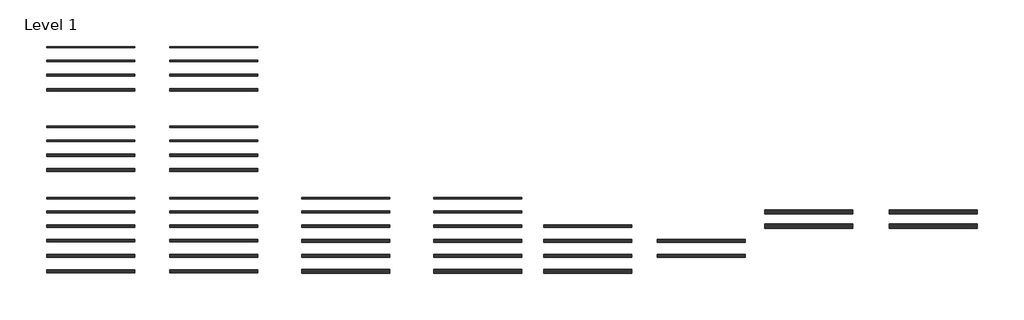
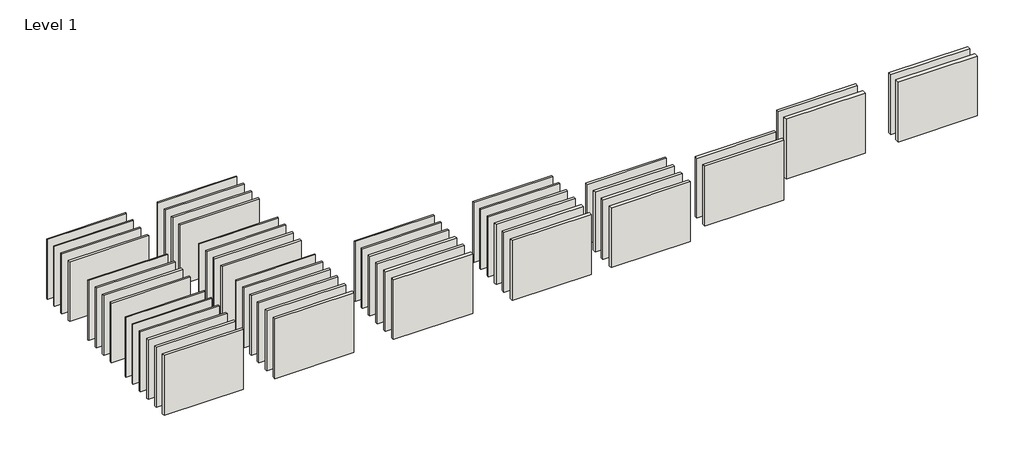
# One storey: 50 walls.
"""IFC4 building model written with IfcOpenShell, lengths in millimetres."""

from ifc_helpers import new_model, si_unit, origin, origin_with_axes, place, context, project, spatial, polyline, outline, extrude, element, save

model = new_model("IFC4")

# Units and contexts
model_context = context("Model", 3, world=origin())
ifc_project = project(units=[si_unit("LENGTHUNIT", "METRE", prefix="MILLI")], contexts=[model_context])

# Site, building, storey
site = spatial("IfcSite", under=ifc_project)
building = spatial("IfcBuilding", under=site)
storey = spatial("IfcBuildingStorey", under=building, Name="Level 1", Elevation=0.0)

# Walls
placement = place(None, origin())
element("IfcWall", 1, ObjectType="Knauf Danogips E MR 450 45/45 -/AA M0", at=placement, inside=storey, context=model_context, shape_type="SweptSolid", body=[
    extrude(outline(polyline([(2218.7204375, 1079.3559755), (-2781.2795625, 1079.3559755), (-2781.2795625, 1149.3559755), (2218.7204375, 1149.3559755), (2218.7204375, 1079.3559755)])), origin_with_axes(), (0.0, 0.0, 1.0), 4000.0),
])
element("IfcWall", 2, ObjectType="Knauf Danogips E MR 450 70/70 -/AA M0", at=placement, inside=storey, context=model_context, shape_type="SweptSolid", body=[
    extrude(outline(polyline([(2218.7204375, 284.3559755), (-2781.2795625, 284.3559755), (-2781.2795625, 379.3559755), (2218.7204375, 379.3559755), (2218.7204375, 284.3559755)])), origin_with_axes(), (0.0, 0.0, 1.0), 4000.0),
])
element("IfcWall", 3, ObjectType="Knauf Danogips E MR 450 95/95 -/AA M0", at=placement, inside=storey, context=model_context, shape_type="SweptSolid", body=[
    extrude(outline(polyline([(2218.7204375, -535.6440245), (-2781.2795625, -535.6440245), (-2781.2795625, -415.6440245), (2218.7204375, -415.6440245), (2218.7204375, -535.6440245)])), origin_with_axes(), (0.0, 0.0, 1.0), 4000.0),
])
element("IfcWall", 4, ObjectType="Knauf Danogips E MR 450 120/120 -/AA M0", at=placement, inside=storey, context=model_context, shape_type="SweptSolid", body=[
    extrude(outline(polyline([(2218.7204375, -1380.6440245), (-2781.2795625, -1380.6440245), (-2781.2795625, -1235.6440245), (2218.7204375, -1235.6440245), (2218.7204375, -1380.6440245)])), origin_with_axes(), (0.0, 0.0, 1.0), 4000.0),
])
element("IfcWall", 5, ObjectType="Knauf Danogips E MR 450 45/45 -/AAA M0", at=placement, inside=storey, context=model_context, shape_type="SweptSolid", body=[
    extrude(outline(polyline([(2218.7204375, -3463.1440245), (-2781.2795625, -3463.1440245), (-2781.2795625, -3380.6440245), (2218.7204375, -3380.6440245), (2218.7204375, -3463.1440245)])), origin_with_axes(), (0.0, 0.0, 1.0), 4000.0),
])
element("IfcWall", 6, ObjectType="Knauf Danogips E MR 450 70/70 -/AAA M0", at=placement, inside=storey, context=model_context, shape_type="SweptSolid", body=[
    extrude(outline(polyline([(2218.7204375, -4270.6440245), (-2781.2795625, -4270.6440245), (-2781.2795625, -4163.1440245), (2218.7204375, -4163.1440245), (2218.7204375, -4270.6440245)])), origin_with_axes(), (0.0, 0.0, 1.0), 4000.0),
])
element("IfcWall", 7, ObjectType="Knauf Danogips E MR 450 95/95 -/AAA M0", at=placement, inside=storey, context=model_context, shape_type="SweptSolid", body=[
    extrude(outline(polyline([(2218.7204375, -5103.1440245), (-2781.2795625, -5103.1440245), (-2781.2795625, -4970.6440245), (2218.7204375, -4970.6440245), (2218.7204375, -5103.1440245)])), origin_with_axes(), (0.0, 0.0, 1.0), 4000.0),
])
element("IfcWall", 8, ObjectType="Knauf Danogips E MR 450 120/120 -/AAA M0", at=placement, inside=storey, context=model_context, shape_type="SweptSolid", body=[
    extrude(outline(polyline([(2218.7204375, -5960.6440245), (-2781.2795625, -5960.6440245), (-2781.2795625, -5803.1440245), (2218.7204375, -5803.1440245), (2218.7204375, -5960.6440245)])), origin_with_axes(), (0.0, 0.0, 1.0), 4000.0),
])
element("IfcWall", 9, ObjectType="Knauf Danogips E MR 450 45/45 A/A M0", at=placement, inside=storey, context=model_context, shape_type="SweptSolid", body=[
    extrude(outline(polyline([(2218.7204375, -7520.6440245), (-2781.2795625, -7520.6440245), (-2781.2795625, -7450.6440245), (2218.7204375, -7450.6440245), (2218.7204375, -7520.6440245)])), origin_with_axes(), (0.0, 0.0, 1.0), 4000.0),
])
element("IfcWall", 10, ObjectType="Knauf Danogips E MR 450 70/70 A/A M0", at=placement, inside=storey, context=model_context, shape_type="SweptSolid", body=[
    extrude(outline(polyline([(2218.7204375, -8315.6440245), (-2781.2795625, -8315.6440245), (-2781.2795625, -8220.6440245), (2218.7204375, -8220.6440245), (2218.7204375, -8315.6440245)])), origin_with_axes(), (0.0, 0.0, 1.0), 4000.0),
])
element("IfcWall", 11, ObjectType="Knauf Danogips E MR 450 95/95 A/A M0", at=placement, inside=storey, context=model_context, shape_type="SweptSolid", body=[
    extrude(outline(polyline([(2218.7204375, -9135.6440245), (-2781.2795625, -9135.6440245), (-2781.2795625, -9015.6440245), (2218.7204375, -9015.6440245), (2218.7204375, -9135.6440245)])), origin_with_axes(), (0.0, 0.0, 1.0), 4000.0),
])
element("IfcWall", 12, ObjectType="Knauf Danogips E MR 450 120/120 A/A M0", at=placement, inside=storey, context=model_context, shape_type="SweptSolid", body=[
    extrude(outline(polyline([(2218.7204375, -9980.6440245), (-2781.2795625, -9980.6440245), (-2781.2795625, -9835.6440245), (2218.7204375, -9835.6440245), (2218.7204375, -9980.6440245)])), origin_with_axes(), (0.0, 0.0, 1.0), 4000.0),
])
element("IfcWall", 13, ObjectType="Knauf Danogips E MR 450 145/145 A/A M0", at=placement, inside=storey, context=model_context, shape_type="SweptSolid", body=[
    extrude(outline(polyline([(2218.7204375, -10850.6440245), (-2781.2795625, -10850.6440245), (-2781.2795625, -10680.6440245), (2218.7204375, -10680.6440245), (2218.7204375, -10850.6440245)])), origin_with_axes(), (0.0, 0.0, 1.0), 4000.0),
])
element("IfcWall", 14, ObjectType="Knauf Danogips E MR 450 160/160 A/A M0", at=placement, inside=storey, context=model_context, shape_type="SweptSolid", body=[
    extrude(outline(polyline([(2218.7204375, -11735.6440245), (-2781.2795625, -11735.6440245), (-2781.2795625, -11550.6440245), (2218.7204375, -11550.6440245), (2218.7204375, -11735.6440245)])), origin_with_axes(), (0.0, 0.0, 1.0), 4000.0),
])
element("IfcWall", 15, ObjectType="Knauf Danogips E MR 450 45/45 -/AA M45", at=placement, inside=storey, context=model_context, shape_type="SweptSolid", body=[
    extrude(outline(polyline([(9218.7204375, 1079.3559755), (4218.7204375, 1079.3559755), (4218.7204375, 1149.3559755), (9218.7204375, 1149.3559755), (9218.7204375, 1079.3559755)])), origin_with_axes(), (0.0, 0.0, 1.0), 4000.0),
])
element("IfcWall", 16, ObjectType="Knauf Danogips E MR 450 70/70 -/AA M45", at=placement, inside=storey, context=model_context, shape_type="SweptSolid", body=[
    extrude(outline(polyline([(9218.7204375, 284.3559755), (4218.7204375, 284.3559755), (4218.7204375, 379.3559755), (9218.7204375, 379.3559755), (9218.7204375, 284.3559755)])), origin_with_axes(), (0.0, 0.0, 1.0), 4000.0),
])
element("IfcWall", 17, ObjectType="Knauf Danogips E MR 450 95/95 -/AA M45", at=placement, inside=storey, context=model_context, shape_type="SweptSolid", body=[
    extrude(outline(polyline([(9218.7204375, -535.6440245), (4218.7204375, -535.6440245), (4218.7204375, -415.6440245), (9218.7204375, -415.6440245), (9218.7204375, -535.6440245)])), origin_with_axes(), (0.0, 0.0, 1.0), 4000.0),
])
element("IfcWall", 18, ObjectType="Knauf Danogips E MR 450 120/120 -/AA M45", at=placement, inside=storey, context=model_context, shape_type="SweptSolid", body=[
    extrude(outline(polyline([(9218.7204375, -1380.6440245), (4218.7204375, -1380.6440245), (4218.7204375, -1235.6440245), (9218.7204375, -1235.6440245), (9218.7204375, -1380.6440245)])), origin_with_axes(), (0.0, 0.0, 1.0), 4000.0),
])
element("IfcWall", 19, ObjectType="Knauf Danogips E MR 450 45/45 -/AAA M45", at=placement, inside=storey, context=model_context, shape_type="SweptSolid", body=[
    extrude(outline(polyline([(9218.7204375, -3463.1440245), (4218.7204375, -3463.1440245), (4218.7204375, -3380.6440245), (9218.7204375, -3380.6440245), (9218.7204375, -3463.1440245)])), origin_with_axes(), (0.0, 0.0, 1.0), 4000.0),
])
element("IfcWall", 20, ObjectType="Knauf Danogips E MR 450 70/70 -/AAA M45", at=placement, inside=storey, context=model_context, shape_type="SweptSolid", body=[
    extrude(outline(polyline([(9218.7204375, -4270.6440245), (4218.7204375, -4270.6440245), (4218.7204375, -4163.1440245), (9218.7204375, -4163.1440245), (9218.7204375, -4270.6440245)])), origin_with_axes(), (0.0, 0.0, 1.0), 4000.0),
])
element("IfcWall", 21, ObjectType="Knauf Danogips E MR 450 95/95 -/AAA M45", at=placement, inside=storey, context=model_context, shape_type="SweptSolid", body=[
    extrude(outline(polyline([(9218.7204375, -5103.1440245), (4218.7204375, -5103.1440245), (4218.7204375, -4970.6440245), (9218.7204375, -4970.6440245), (9218.7204375, -5103.1440245)])), origin_with_axes(), (0.0, 0.0, 1.0), 4000.0),
])
element("IfcWall", 22, ObjectType="Knauf Danogips E MR 450 120/120 -/AAA M45", at=placement, inside=storey, context=model_context, shape_type="SweptSolid", body=[
    extrude(outline(polyline([(9218.7204375, -5960.6440245), (4218.7204375, -5960.6440245), (4218.7204375, -5803.1440245), (9218.7204375, -5803.1440245), (9218.7204375, -5960.6440245)])), origin_with_axes(), (0.0, 0.0, 1.0), 4000.0),
])
element("IfcWall", 23, ObjectType="Knauf Danogips E MR 450 45/45 A/A M45", at=placement, inside=storey, context=model_context, shape_type="SweptSolid", body=[
    extrude(outline(polyline([(9218.7204375, -7520.6440245), (4218.7204375, -7520.6440245), (4218.7204375, -7450.6440245), (9218.7204375, -7450.6440245), (9218.7204375, -7520.6440245)])), origin_with_axes(), (0.0, 0.0, 1.0), 4000.0),
])
element("IfcWall", 24, ObjectType="Knauf Danogips E MR 450 70/70 A/A M45", at=placement, inside=storey, context=model_context, shape_type="SweptSolid", body=[
    extrude(outline(polyline([(9218.7204375, -8315.6440245), (4218.7204375, -8315.6440245), (4218.7204375, -8220.6440245), (9218.7204375, -8220.6440245), (9218.7204375, -8315.6440245)])), origin_with_axes(), (0.0, 0.0, 1.0), 4000.0),
])
element("IfcWall", 25, ObjectType="Knauf Danogips E MR 450 95/95 A/A M45", at=placement, inside=storey, context=model_context, shape_type="SweptSolid", body=[
    extrude(outline(polyline([(9218.7204375, -9135.6440245), (4218.7204375, -9135.6440245), (4218.7204375, -9015.6440245), (9218.7204375, -9015.6440245), (9218.7204375, -9135.6440245)])), origin_with_axes(), (0.0, 0.0, 1.0), 4000.0),
])
element("IfcWall", 26, ObjectType="Knauf Danogips E MR 450 120/120 A/A M45", at=placement, inside=storey, context=model_context, shape_type="SweptSolid", body=[
    extrude(outline(polyline([(9218.7204375, -9980.6440245), (4218.7204375, -9980.6440245), (4218.7204375, -9835.6440245), (9218.7204375, -9835.6440245), (9218.7204375, -9980.6440245)])), origin_with_axes(), (0.0, 0.0, 1.0), 4000.0),
])
element("IfcWall", 27, ObjectType="Knauf Danogips E MR 450 145/145 A/A M45", at=placement, inside=storey, context=model_context, shape_type="SweptSolid", body=[
    extrude(outline(polyline([(9218.7204375, -10850.6440245), (4218.7204375, -10850.6440245), (4218.7204375, -10680.6440245), (9218.7204375, -10680.6440245), (9218.7204375, -10850.6440245)])), origin_with_axes(), (0.0, 0.0, 1.0), 4000.0),
])
element("IfcWall", 28, ObjectType="Knauf Danogips E MR 450 160/160 A/A M45", at=placement, inside=storey, context=model_context, shape_type="SweptSolid", body=[
    extrude(outline(polyline([(9218.7204375, -11735.6440245), (4218.7204375, -11735.6440245), (4218.7204375, -11550.6440245), (9218.7204375, -11550.6440245), (9218.7204375, -11735.6440245)])), origin_with_axes(), (0.0, 0.0, 1.0), 4000.0),
])
element("IfcWall", 29, ObjectType="Knauf Danogips E MR 450 45/45 AA/AA M0", at=placement, inside=storey, context=model_context, shape_type="SweptSolid", body=[
    extrude(outline(polyline([(16718.7204375, -7533.1440245), (11718.7204375, -7533.1440245), (11718.7204375, -7438.1440245), (16718.7204375, -7438.1440245), (16718.7204375, -7533.1440245)])), origin_with_axes(), (0.0, 0.0, 1.0), 4000.0),
])
element("IfcWall", 30, ObjectType="Knauf Danogips E MR 450 70/70 AA/AA M0", at=placement, inside=storey, context=model_context, shape_type="SweptSolid", body=[
    extrude(outline(polyline([(16718.7204375, -8328.1440245), (11718.7204375, -8328.1440245), (11718.7204375, -8208.1440245), (16718.7204375, -8208.1440245), (16718.7204375, -8328.1440245)])), origin_with_axes(), (0.0, 0.0, 1.0), 4000.0),
])
element("IfcWall", 31, ObjectType="Knauf Danogips E MR 450 95/95 AA/AA M0", at=placement, inside=storey, context=model_context, shape_type="SweptSolid", body=[
    extrude(outline(polyline([(16718.7204375, -9148.1440245), (11718.7204375, -9148.1440245), (11718.7204375, -9003.1440245), (16718.7204375, -9003.1440245), (16718.7204375, -9148.1440245)])), origin_with_axes(), (0.0, 0.0, 1.0), 4000.0),
])
element("IfcWall", 32, ObjectType="Knauf Danogips E MR 450 120/120 AA/AA M0", at=placement, inside=storey, context=model_context, shape_type="SweptSolid", body=[
    extrude(outline(polyline([(16718.7204375, -9993.1440245), (11718.7204375, -9993.1440245), (11718.7204375, -9823.1440245), (16718.7204375, -9823.1440245), (16718.7204375, -9993.1440245)])), origin_with_axes(), (0.0, 0.0, 1.0), 4000.0),
])
element("IfcWall", 33, ObjectType="Knauf Danogips E MR 450 145/145 AA/AA M0", at=placement, inside=storey, context=model_context, shape_type="SweptSolid", body=[
    extrude(outline(polyline([(16718.7204375, -10863.1440245), (11718.7204375, -10863.1440245), (11718.7204375, -10668.1440245), (16718.7204375, -10668.1440245), (16718.7204375, -10863.1440245)])), origin_with_axes(), (0.0, 0.0, 1.0), 4000.0),
])
element("IfcWall", 34, ObjectType="Knauf Danogips E MR 450 160/160 AA/AA M0", at=placement, inside=storey, context=model_context, shape_type="SweptSolid", body=[
    extrude(outline(polyline([(16718.7204375, -11748.1440245), (11718.7204375, -11748.1440245), (11718.7204375, -11538.1440245), (16718.7204375, -11538.1440245), (16718.7204375, -11748.1440245)])), origin_with_axes(), (0.0, 0.0, 1.0), 4000.0),
])
element("IfcWall", 35, ObjectType="Knauf Danogips E MR 450 45/45 AA/AA M45", at=placement, inside=storey, context=model_context, shape_type="SweptSolid", body=[
    extrude(outline(polyline([(24218.7204375, -7533.1440245), (19218.7204375, -7533.1440245), (19218.7204375, -7438.1440245), (24218.7204375, -7438.1440245), (24218.7204375, -7533.1440245)])), origin_with_axes(), (0.0, 0.0, 1.0), 4000.0),
])
element("IfcWall", 36, ObjectType="Knauf Danogips E MR 450 70/70 AA/AA M45", at=placement, inside=storey, context=model_context, shape_type="SweptSolid", body=[
    extrude(outline(polyline([(24218.7204375, -8328.1440245), (19218.7204375, -8328.1440245), (19218.7204375, -8208.1440245), (24218.7204375, -8208.1440245), (24218.7204375, -8328.1440245)])), origin_with_axes(), (0.0, 0.0, 1.0), 4000.0),
])
element("IfcWall", 37, ObjectType="Knauf Danogips E MR 450 95/95 AA/AA M45", at=placement, inside=storey, context=model_context, shape_type="SweptSolid", body=[
    extrude(outline(polyline([(24218.7204375, -9148.1440245), (19218.7204375, -9148.1440245), (19218.7204375, -9003.1440245), (24218.7204375, -9003.1440245), (24218.7204375, -9148.1440245)])), origin_with_axes(), (0.0, 0.0, 1.0), 4000.0),
])
element("IfcWall", 38, ObjectType="Knauf Danogips E MR 450 120/120 AA/AA M45", at=placement, inside=storey, context=model_context, shape_type="SweptSolid", body=[
    extrude(outline(polyline([(24218.7204375, -9993.1440245), (19218.7204375, -9993.1440245), (19218.7204375, -9823.1440245), (24218.7204375, -9823.1440245), (24218.7204375, -9993.1440245)])), origin_with_axes(), (0.0, 0.0, 1.0), 4000.0),
])
element("IfcWall", 39, ObjectType="Knauf Danogips E MR 450 145/145 AA/AA M45", at=placement, inside=storey, context=model_context, shape_type="SweptSolid", body=[
    extrude(outline(polyline([(24218.7204375, -10863.1440245), (19218.7204375, -10863.1440245), (19218.7204375, -10668.1440245), (24218.7204375, -10668.1440245), (24218.7204375, -10863.1440245)])), origin_with_axes(), (0.0, 0.0, 1.0), 4000.0),
])
element("IfcWall", 40, ObjectType="Knauf Danogips E MR 450 160/160 AA/AA M45", at=placement, inside=storey, context=model_context, shape_type="SweptSolid", body=[
    extrude(outline(polyline([(24218.7204375, -11748.1440245), (19218.7204375, -11748.1440245), (19218.7204375, -11538.1440245), (24218.7204375, -11538.1440245), (24218.7204375, -11748.1440245)])), origin_with_axes(), (0.0, 0.0, 1.0), 4000.0),
])
element("IfcWall", 41, ObjectType="Knauf Danogips E MR 450 95/95 AA/AA M95", at=placement, inside=storey, context=model_context, shape_type="SweptSolid", body=[
    extrude(outline(polyline([(30478.7204375, -9148.1440245), (25478.7204375, -9148.1440245), (25478.7204375, -9003.1440245), (30478.7204375, -9003.1440245), (30478.7204375, -9148.1440245)])), origin_with_axes(), (0.0, 0.0, 1.0), 4000.0),
])
element("IfcWall", 42, ObjectType="Knauf Danogips E MR 450 120/120 AA/AA M95", at=placement, inside=storey, context=model_context, shape_type="SweptSolid", body=[
    extrude(outline(polyline([(30478.7204375, -9993.1440245), (25478.7204375, -9993.1440245), (25478.7204375, -9823.1440245), (30478.7204375, -9823.1440245), (30478.7204375, -9993.1440245)])), origin_with_axes(), (0.0, 0.0, 1.0), 4000.0),
])
element("IfcWall", 43, ObjectType="Knauf Danogips E MR 450 145/145 AA/AA M95", at=placement, inside=storey, context=model_context, shape_type="SweptSolid", body=[
    extrude(outline(polyline([(30478.7204375, -10863.1440245), (25478.7204375, -10863.1440245), (25478.7204375, -10668.1440245), (30478.7204375, -10668.1440245), (30478.7204375, -10863.1440245)])), origin_with_axes(), (0.0, 0.0, 1.0), 4000.0),
])
element("IfcWall", 44, ObjectType="Knauf Danogips E MR 450 160/160 AA/AA M95", at=placement, inside=storey, context=model_context, shape_type="SweptSolid", body=[
    extrude(outline(polyline([(30478.7204375, -11748.1440245), (25478.7204375, -11748.1440245), (25478.7204375, -11538.1440245), (30478.7204375, -11538.1440245), (30478.7204375, -11748.1440245)])), origin_with_axes(), (0.0, 0.0, 1.0), 4000.0),
])
element("IfcWall", 45, ObjectType="Knauf Danogips Z MR 450 120/70 AA/AA M90", at=placement, inside=storey, context=model_context, shape_type="SweptSolid", body=[
    extrude(outline(polyline([(36918.7204375, -9993.1440245), (31918.7204375, -9993.1440245), (31918.7204375, -9823.1440245), (36918.7204375, -9823.1440245), (36918.7204375, -9993.1440245)])), origin_with_axes(), (0.0, 0.0, 1.0), 4000.0),
])
element("IfcWall", 46, ObjectType="Knauf Danogips Z MR 450 145/95 AA/AA M90", at=placement, inside=storey, context=model_context, shape_type="SweptSolid", body=[
    extrude(outline(polyline([(36918.7204375, -10863.1440245), (31918.7204375, -10863.1440245), (31918.7204375, -10668.1440245), (36918.7204375, -10668.1440245), (36918.7204375, -10863.1440245)])), origin_with_axes(), (0.0, 0.0, 1.0), 4000.0),
])
element("IfcWall", 47, ObjectType="Knauf Danogips D MR 450 70/70 AA/AA M140", at=placement, inside=storey, context=model_context, shape_type="SweptSolid", body=[
    extrude(outline(polyline([(43018.7204375, -8370.6440245), (38018.7204375, -8370.6440245), (38018.7204375, -8165.6440245), (43018.7204375, -8165.6440245), (43018.7204375, -8370.6440245)])), origin_with_axes(), (0.0, 0.0, 1.0), 4000.0),
])
element("IfcWall", 48, ObjectType="Knauf Danogips D MR 450 95/95 AA/AA M190", at=placement, inside=storey, context=model_context, shape_type="SweptSolid", body=[
    extrude(outline(polyline([(43018.7204375, -9203.1440245), (38018.7204375, -9203.1440245), (38018.7204375, -8948.1440245), (43018.7204375, -8948.1440245), (43018.7204375, -9203.1440245)])), origin_with_axes(), (0.0, 0.0, 1.0), 4000.0),
])
element("IfcWall", 49, ObjectType="Knauf Danogips D MR 450 70/70 AAA/AAA M140", at=placement, inside=storey, context=model_context, shape_type="SweptSolid", body=[
    extrude(outline(polyline([(50118.7204375, -8383.1440245), (45118.7204375, -8383.1440245), (45118.7204375, -8153.1440245), (50118.7204375, -8153.1440245), (50118.7204375, -8383.1440245)])), origin_with_axes(), (0.0, 0.0, 1.0), 4000.0),
])
element("IfcWall", 50, ObjectType="Knauf Danogips D MR 450 95/95 AAA/AAA M190", at=placement, inside=storey, context=model_context, shape_type="SweptSolid", body=[
    extrude(outline(polyline([(50118.7204375, -9215.6440245), (45118.7204375, -9215.6440245), (45118.7204375, -8935.6440245), (50118.7204375, -8935.6440245), (50118.7204375, -9215.6440245)])), origin_with_axes(), (0.0, 0.0, 1.0), 4000.0),
])

save(model, "model.ifc")
